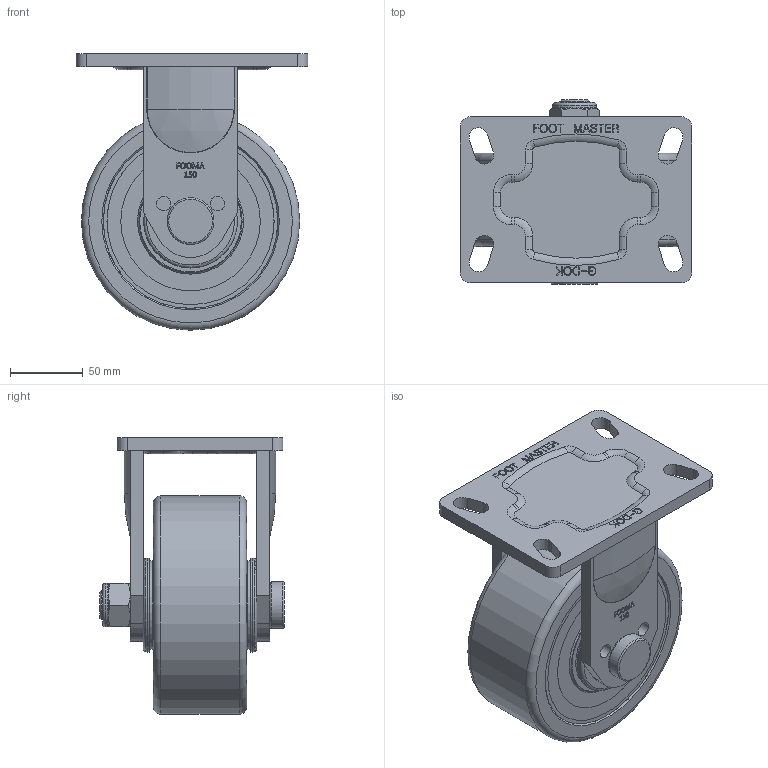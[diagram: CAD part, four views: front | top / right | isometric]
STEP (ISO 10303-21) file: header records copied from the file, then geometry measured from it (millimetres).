
FILE_DESCRIPTION(/* description */ (''),/* implementation_level */ '2;1');
FILE_NAME(/* name */ 'C:\Users\GR-DT-1-010\Desktop\GF-MCD\GF-150-MCD\step파일\GF-150-ARF-MCD.stp',/* time_stamp */ '2019-08-29T20:33:38+09:00',/* author */ ('GR-DT-1-010'),/* organization */ (''),/* preprocessor_version */ 'ST-DEVELOPER v16.13',/* originating_system */ 'Autodesk Inventor 2018',/* authorisation */ '');
FILE_SCHEMA (('AUTOMOTIVE_DESIGN { 1 0 10303 214 3 1 1 }'));
Length unit declared in the file: millimetre
Products named in the file (1): GF-150-ARF-MCD
Bounding box: 159 x 127 x 190 mm (x, y, z)
Volume: 1461214.7 mm3; surface area: 154989.7 mm2
Topology: 1 solids, 1 shells, 1007 faces, 2809 edges, 1828 vertices
Faces by surface type: bspline 404, plane 361, cylinder 150, torus 58, cone 26, sphere 8
Full cylindrical faces by diameter (mm): 10 x4, 20 x3, 20.2 x2, 24.9 x2, 30 x1, 32 x1, 34 x2, 43 x2, 60.9 x2, 64.519 x2, 150 x1
Entity records: 34490 total; most frequent: CARTESIAN_POINT 11426, ORIENTED_EDGE 5400, DIRECTION 3605, EDGE_CURVE 2699, VERTEX_POINT 1803, LINE 1361, VECTOR 1361, EDGE_LOOP 1175
